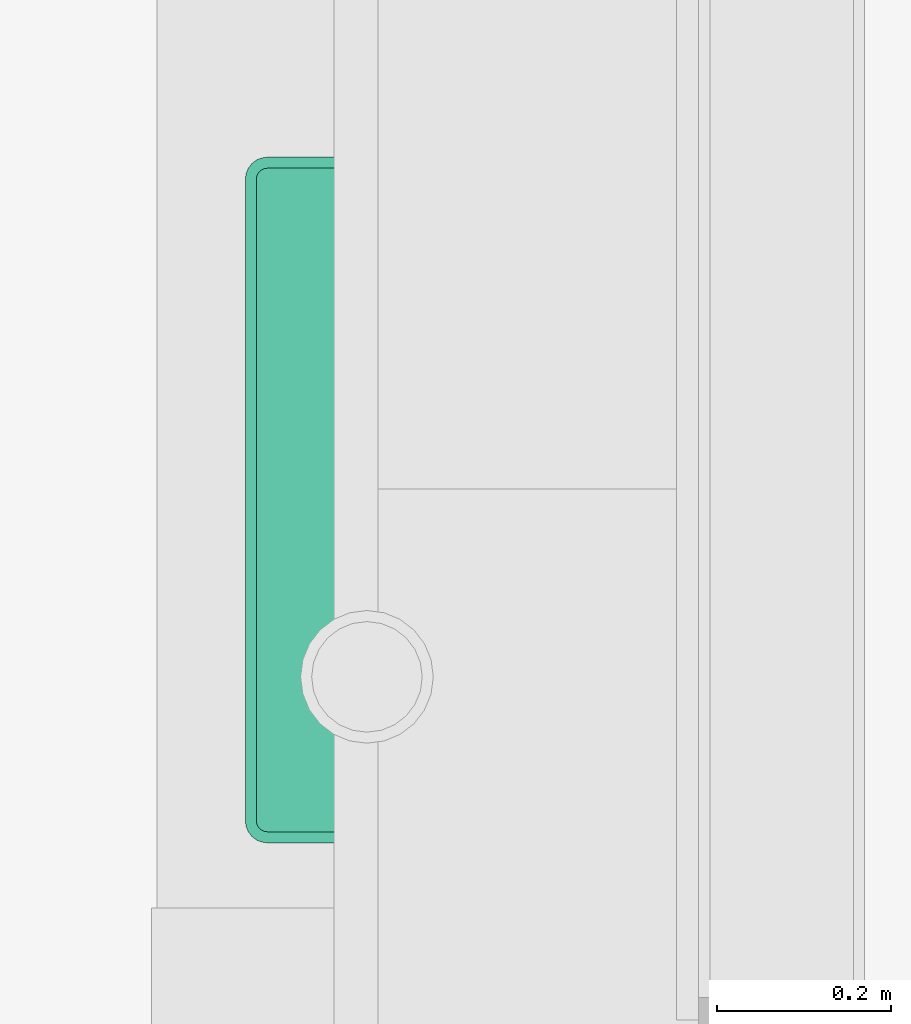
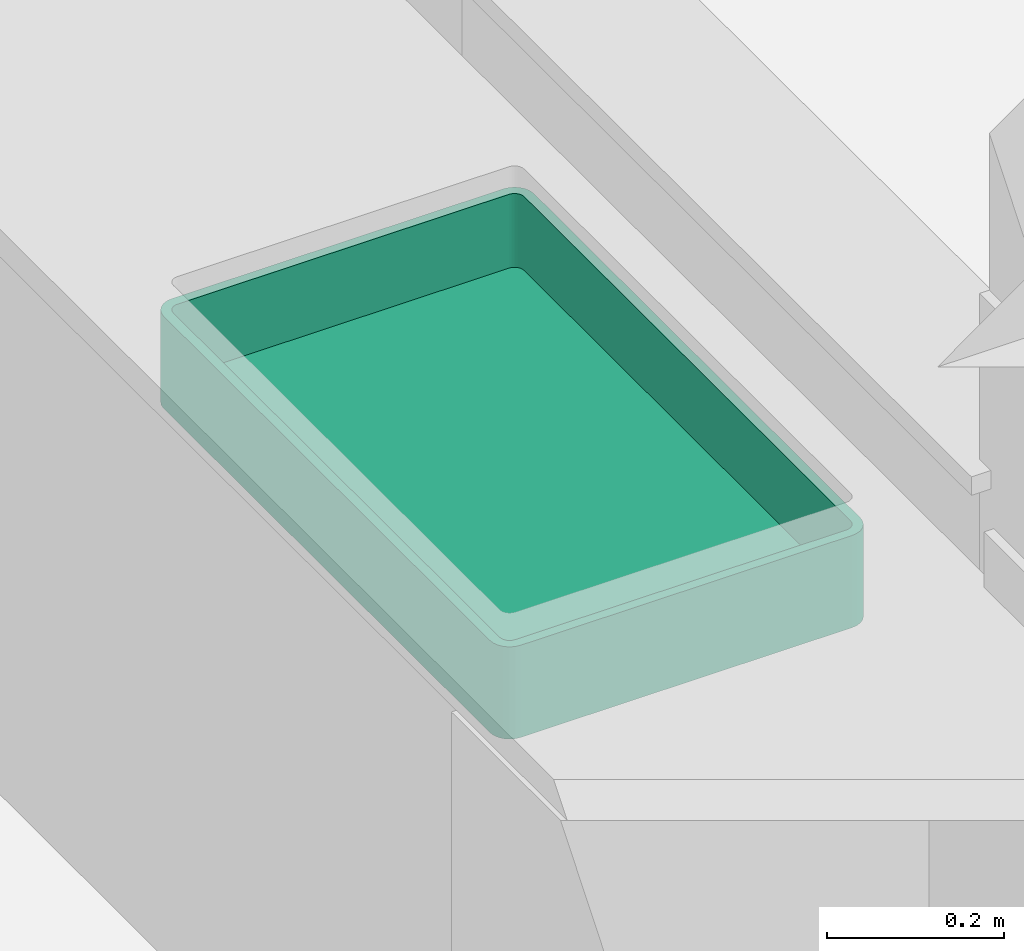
# One storey, part 52 of 81: 1 flow terminal.
"""IFC2X3 building model written with IfcOpenShell, lengths in feet."""

from ifc_helpers import new_model, entity, si_unit, converted_unit, derived_unit, direction, frame, origin, place, context, subcontext, project, spatial, faceted_brep, source, transform, mapped, material, type_object, type_shapes, element, save


model = new_model("IFC2X3")

# Units and contexts
model_context = context("Model", 3, precision=0.0001, world=origin(), true_north=direction((6.12303176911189e-17, 1.0)))
body_context = subcontext(model_context, "Body", "Model", "MODEL_VIEW")
ifc_project = project(units=[converted_unit("LENGTHUNIT", "FOOT", entity("IfcRatioMeasure", 0.3048), si_unit("LENGTHUNIT", "METRE"), dimensions=[1, 0, 0, 0, 0, 0, 0]), converted_unit("AREAUNIT", "SQUARE FOOT", entity("IfcRatioMeasure", 0.09290304), si_unit("AREAUNIT", "SQUARE_METRE"), dimensions=[2, 0, 0, 0, 0, 0, 0]), converted_unit("VOLUMEUNIT", "CUBIC FOOT", entity("IfcRatioMeasure", 0.028316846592), si_unit("VOLUMEUNIT", "CUBIC_METRE"), dimensions=[3, 0, 0, 0, 0, 0, 0]), converted_unit("PLANEANGLEUNIT", "DEGREE", entity("IfcRatioMeasure", 0.0174532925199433), si_unit("PLANEANGLEUNIT", "RADIAN"), dimensions=[0, 0, 0, 0, 0, 0, 0]), si_unit("MASSUNIT", "GRAM", prefix="KILO"), derived_unit("MASSDENSITYUNIT", [(si_unit("MASSUNIT", "GRAM", prefix="KILO"), 1), (si_unit("LENGTHUNIT", "METRE"), -3)]), derived_unit("MOMENTOFINERTIAUNIT", [(si_unit("LENGTHUNIT", "METRE"), 4)]), si_unit("TIMEUNIT", "SECOND"), si_unit("FREQUENCYUNIT", "HERTZ"), si_unit("THERMODYNAMICTEMPERATUREUNIT", "DEGREE_CELSIUS"), derived_unit("THERMALTRANSMITTANCEUNIT", [(si_unit("MASSUNIT", "GRAM", prefix="KILO"), 1), (si_unit("THERMODYNAMICTEMPERATUREUNIT", "KELVIN"), -1), (si_unit("TIMEUNIT", "SECOND"), -3)]), derived_unit("VOLUMETRICFLOWRATEUNIT", [(si_unit("LENGTHUNIT", "METRE"), 3), (si_unit("TIMEUNIT", "SECOND"), -1)]), si_unit("ELECTRICCURRENTUNIT", "AMPERE"), si_unit("ELECTRICVOLTAGEUNIT", "VOLT"), si_unit("POWERUNIT", "WATT"), si_unit("FORCEUNIT", "NEWTON"), si_unit("ILLUMINANCEUNIT", "LUX"), si_unit("LUMINOUSFLUXUNIT", "LUMEN"), si_unit("LUMINOUSINTENSITYUNIT", "CANDELA"), derived_unit("USERDEFINED", [(si_unit("MASSUNIT", "GRAM", prefix="KILO"), -1), (si_unit("LENGTHUNIT", "METRE"), -2), (si_unit("TIMEUNIT", "SECOND"), 3), (si_unit("LUMINOUSFLUXUNIT", "LUMEN"), 1)]), derived_unit("LINEARVELOCITYUNIT", [(si_unit("LENGTHUNIT", "METRE"), 1), (si_unit("TIMEUNIT", "SECOND"), -1)]), si_unit("PRESSUREUNIT", "PASCAL"), derived_unit("USERDEFINED", [(si_unit("LENGTHUNIT", "METRE"), -2), (si_unit("MASSUNIT", "GRAM", prefix="KILO"), 1), (si_unit("TIMEUNIT", "SECOND"), -2)]), derived_unit("LINEARFORCEUNIT", [(si_unit("MASSUNIT", "GRAM", prefix="KILO"), 1), (si_unit("LENGTHUNIT", "METRE"), 1), (si_unit("TIMEUNIT", "SECOND"), -2), (si_unit("LENGTHUNIT", "METRE"), -1)]), derived_unit("PLANARFORCEUNIT", [(si_unit("MASSUNIT", "GRAM", prefix="KILO"), 1), (si_unit("LENGTHUNIT", "METRE"), 1), (si_unit("TIMEUNIT", "SECOND"), -2), (si_unit("LENGTHUNIT", "METRE"), -2)])], contexts=[model_context])

# Site, building, storey
site_placement = place(None, origin())
site = spatial("IfcSite", under=ifc_project, at=site_placement, Name="Default", CompositionType="ELEMENT")
building_placement = place(site_placement, origin())
building = spatial("IfcBuilding", under=site, at=building_placement, CompositionType="ELEMENT")
storey_placement = place(building_placement, origin())
storey = spatial("IfcBuildingStorey", under=building, at=storey_placement, Name="First floor", CompositionType="ELEMENT", Elevation=0.0)

# Flow terminal
ifc_material = material(Name="Default New Material")
distribution_element_type = type_object("IfcDistributionElementType", Name="Plumbing Fixtures 6:Plumbing Fixtures 5", material=ifc_material)
shared_shape = source(origin(), body_context, "Body", "Brep", [
    faceted_brep([(1.5774026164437, 2.54690049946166, 0.416666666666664), (1.54131822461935, 2.52606716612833, 0.416666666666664), (1.58572765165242, 2.52680208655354, 0.416666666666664), (1.53469661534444, 2.53469661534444, 0.416666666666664), (1.56415939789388, 2.56415939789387, 0.416666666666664), (1.52606716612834, 2.54131822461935, 0.416666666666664), (1.54690049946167, 2.5774026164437, 0.416666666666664), (1.52680208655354, 2.58572765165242, 0.416666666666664), (1.51601795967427, 2.54548074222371, 0.416666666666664), (1.505233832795, 2.58856716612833, 0.416666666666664), (1.505233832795, 2.54690049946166, 0.416666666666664), (0.0885671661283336, 2.54690049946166, 0.416666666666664), (0.0885671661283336, 2.58856716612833, 0.416666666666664), (0.077783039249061, 2.54548074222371, 0.416666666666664), (0.0669989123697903, 2.58572765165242, 0.416666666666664), (0.0677338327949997, 2.54131822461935, 0.416666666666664), (0.0469004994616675, 2.5774026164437, 0.416666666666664), (0.0296416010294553, 2.56415939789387, 0.416666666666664), (0.0591043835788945, 2.53469661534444, 0.416666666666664), (0.0163983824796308, 2.54690049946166, 0.416666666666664), (0.0524827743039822, 2.52606716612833, 0.416666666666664), (0.00807334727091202, 2.52680208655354, 0.416666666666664), (0.0483202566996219, 2.51601795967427, 0.416666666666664), (0.00523383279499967, 2.505233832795, 0.416666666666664), (0.0469004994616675, 2.505233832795, 0.416666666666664), (0.00523383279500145, 0.0885671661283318, 0.416666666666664), (0.0469004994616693, 0.0885671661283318, 0.416666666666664), (0.0483202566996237, 0.0777830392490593, 0.416666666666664), (0.0080733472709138, 0.0669989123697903, 0.416666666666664), (0.052482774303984, 0.0677338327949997, 0.416666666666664), (0.0163983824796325, 0.046900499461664, 0.416666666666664), (0.0591043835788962, 0.0591043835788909, 0.416666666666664), (0.0296416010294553, 0.0296416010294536, 0.416666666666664), (0.0677338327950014, 0.0524827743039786, 0.416666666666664), (0.0469004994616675, 0.016398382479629, 0.416666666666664), (0.0669989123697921, 0.00807334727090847, 0.416666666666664), (0.0777830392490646, 0.0483202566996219, 0.416666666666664), (0.0885671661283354, 0.00523383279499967, 0.416666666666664), (0.0885671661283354, 0.046900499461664, 0.416666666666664), (1.505233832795, 0.00523383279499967, 0.416666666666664), (1.505233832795, 0.046900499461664, 0.416666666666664), (1.51601795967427, 0.0483202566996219, 0.416666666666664), (1.52680208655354, 0.00807334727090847, 0.416666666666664), (1.52606716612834, 0.0524827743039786, 0.416666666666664), (1.54690049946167, 0.016398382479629, 0.416666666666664), (1.56415939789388, 0.0296416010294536, 0.416666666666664), (1.53469661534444, 0.0591043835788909, 0.416666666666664), (1.5774026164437, 0.046900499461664, 0.416666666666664), (1.54131822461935, 0.0677338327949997, 0.416666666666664), (1.58572765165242, 0.0669989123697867, 0.416666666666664), (1.54548074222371, 0.0777830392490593, 0.416666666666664), (1.58856716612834, 0.0885671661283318, 0.416666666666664), (1.54690049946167, 0.0885671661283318, 0.416666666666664), (1.54690049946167, 2.505233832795, 0.416666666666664), (1.58856716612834, 2.505233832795, 0.416666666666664), (1.54548074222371, 2.51601795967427, 0.416666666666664), (0.0296416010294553, 2.56415939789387, 0.0), (0.0469004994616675, 2.5774026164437, 0.0), (0.0669989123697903, 2.58572765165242, 0.0), (0.0885671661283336, 2.58856716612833, 0.0), (1.505233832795, 2.58856716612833, 0.0), (1.52680208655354, 2.58572765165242, 0.0), (1.54690049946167, 2.5774026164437, 0.0), (1.56415939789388, 2.56415939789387, 0.0), (1.5774026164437, 2.54690049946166, 0.0), (1.58572765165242, 2.52680208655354, 0.0), (1.58856716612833, 2.505233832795, 0.0), (1.58856716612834, 0.0885671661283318, 0.0), (1.58572765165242, 0.0669989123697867, 0.0), (1.5774026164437, 0.046900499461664, 0.0), (1.56415939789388, 0.0296416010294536, 0.0), (1.54690049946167, 0.016398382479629, 0.0), (1.52680208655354, 0.00807334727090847, 0.0), (1.505233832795, 0.00523383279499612, 0.0), (0.0885671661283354, 0.00523383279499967, 0.0), (0.0669989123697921, 0.00807334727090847, 0.0), (0.0469004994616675, 0.016398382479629, 0.0), (0.0296416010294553, 0.0296416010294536, 0.0), (0.0163983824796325, 0.046900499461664, 0.0), (0.0080733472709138, 0.0669989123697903, 0.0), (0.00523383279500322, 0.0885671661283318, 0.0), (0.00523383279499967, 2.505233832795, 0.0), (0.00807334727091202, 2.52680208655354, 0.0), (0.0163983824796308, 2.54690049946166, 0.0), (0.0524827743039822, 2.52606716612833, 0.0833333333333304), (0.0483202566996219, 2.51601795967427, 0.0833333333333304), (0.0469004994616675, 2.505233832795, 0.0833333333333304), (0.0469004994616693, 0.0885671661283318, 0.0833333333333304), (0.0483202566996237, 0.0777830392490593, 0.0833333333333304), (0.052482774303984, 0.0677338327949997, 0.0833333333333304), (0.0591043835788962, 0.0591043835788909, 0.0833333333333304), (0.0677338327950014, 0.0524827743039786, 0.0833333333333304), (0.0777830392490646, 0.0483202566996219, 0.0833333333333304), (0.0885671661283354, 0.046900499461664, 0.0833333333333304), (1.505233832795, 0.046900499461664, 0.0833333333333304), (1.51601795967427, 0.0483202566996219, 0.0833333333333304), (1.52606716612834, 0.0524827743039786, 0.0833333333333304), (1.53469661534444, 0.0591043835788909, 0.0833333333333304), (1.54131822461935, 0.0677338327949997, 0.0833333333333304), (1.54548074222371, 0.0777830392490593, 0.0833333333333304), (1.54690049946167, 0.0885671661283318, 0.0833333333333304), (1.54690049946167, 2.505233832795, 0.0833333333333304), (1.54548074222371, 2.51601795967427, 0.0833333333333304), (1.54131822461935, 2.52606716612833, 0.0833333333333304), (1.53469661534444, 2.53469661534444, 0.0833333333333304), (1.52606716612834, 2.54131822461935, 0.0833333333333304), (1.51601795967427, 2.54548074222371, 0.0833333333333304), (1.505233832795, 2.54690049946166, 0.0833333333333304), (0.0885671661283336, 2.54690049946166, 0.0833333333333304), (0.077783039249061, 2.54548074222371, 0.0833333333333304), (0.0677338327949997, 2.54131822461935, 0.0833333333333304), (0.0591043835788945, 2.53469661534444, 0.0833333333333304)], [[[0, 1, 2]], [[1, 0, 3]], [[4, 3, 0]], [[4, 5, 3]], [[4, 6, 5]], [[6, 7, 5]], [[8, 5, 7]], [[8, 7, 9]], [[8, 9, 10]], [[10, 9, 11]], [[12, 11, 9]], [[13, 11, 12]], [[13, 12, 14]], [[15, 13, 14]], [[16, 15, 14]], [[17, 15, 16]], [[18, 15, 17]], [[17, 19, 18]], [[19, 20, 18]], [[19, 21, 20]], [[20, 21, 22]], [[21, 23, 22]], [[24, 22, 23]], [[24, 23, 25]], [[25, 26, 24]], [[27, 26, 25]], [[27, 25, 28]], [[27, 28, 29]], [[28, 30, 29]], [[31, 29, 30]], [[31, 30, 32]], [[32, 33, 31]], [[33, 32, 34]], [[35, 33, 34]], [[35, 36, 33]], [[36, 35, 37]], [[37, 38, 36]], [[38, 37, 39]], [[39, 40, 38]], [[40, 39, 41]], [[42, 41, 39]], [[41, 42, 43]], [[43, 42, 44]], [[43, 44, 45]], [[43, 45, 46]], [[46, 45, 47]], [[46, 47, 48]], [[47, 49, 48]], [[50, 48, 49]], [[51, 50, 49]], [[51, 52, 50]], [[52, 51, 53]], [[54, 53, 51]], [[54, 2, 55]], [[55, 53, 54]], [[55, 2, 1]], [[56, 57, 58, 59, 60, 61, 62, 63, 64, 65, 66, 67, 68, 69, 70, 71, 72, 73, 74, 75, 76, 77, 78, 79, 80, 81, 82, 83]], [[2, 65, 64, 0]], [[0, 64, 63, 4]], [[66, 65, 2, 54]], [[6, 62, 61, 7]], [[7, 61, 60, 9]], [[4, 63, 62, 6]], [[12, 9, 60, 59]], [[57, 56, 17, 16]], [[12, 59, 58, 14]], [[14, 58, 57, 16]], [[19, 83, 82, 21]], [[21, 82, 81, 23]], [[17, 56, 83, 19]], [[25, 23, 81, 80]], [[28, 79, 78, 30]], [[30, 78, 77, 32]], [[80, 79, 28, 25]], [[34, 76, 75, 35]], [[35, 75, 74, 37]], [[32, 77, 76, 34]], [[39, 37, 74, 73]], [[42, 72, 71, 44]], [[44, 71, 70, 45]], [[73, 72, 42, 39]], [[47, 69, 68, 49]], [[49, 68, 67, 51]], [[45, 70, 69, 47]], [[54, 51, 67, 66]], [[84, 85, 86, 87, 88, 89, 90, 91, 92, 93, 94, 95, 96, 97, 98, 99, 100, 101, 102, 103, 104, 105, 106, 107, 108, 109, 110, 111]], [[5, 8, 106, 105]], [[3, 5, 105, 104]], [[106, 8, 10, 107]], [[55, 1, 103, 102]], [[53, 55, 102, 101]], [[103, 1, 3, 104]], [[53, 101, 100, 52]], [[99, 50, 52, 100]], [[99, 98, 48, 50]], [[48, 98, 97, 46]], [[41, 43, 96, 95]], [[40, 41, 95, 94]], [[43, 46, 97, 96]], [[40, 94, 93, 38]], [[91, 90, 31, 33]], [[92, 36, 38, 93]], [[36, 92, 91, 33]], [[27, 29, 89, 88]], [[26, 27, 88, 87]], [[29, 31, 90, 89]], [[26, 87, 86, 24]], [[20, 22, 85, 84]], [[18, 20, 84, 111]], [[85, 22, 24, 86]], [[13, 15, 110, 109]], [[11, 13, 109, 108]], [[110, 15, 18, 111]], [[11, 108, 107, 10]]]),
])
type_shapes(distribution_element_type, [shared_shape])
flow_terminal_placement = place(storey_placement, frame((11.1614328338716, 20.3277543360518, 13.125)))
element("IfcFlowTerminal", 1, at=flow_terminal_placement, inside=storey, type_object=distribution_element_type, material=ifc_material, Name="Plumbing Fixtures 6:Plumbing Fixtures 5", ObjectType="Plumbing Fixtures 6:Plumbing Fixtures 5", context=body_context, shape_type="MappedRepresentation", body=[
    mapped(shared_shape, transform((0.0, 0.0, 0.0), scale=1.0)),
])

save(model, "model.ifc")
